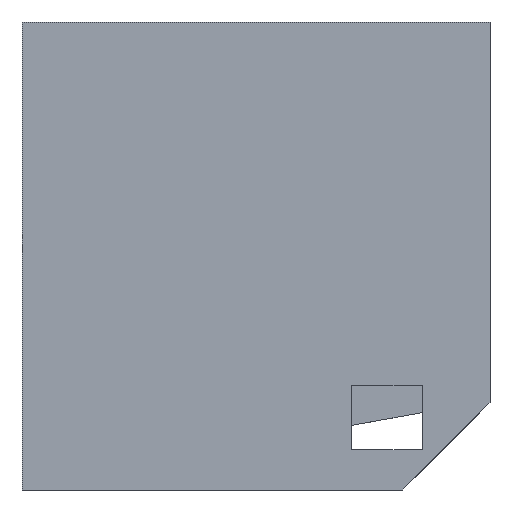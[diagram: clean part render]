
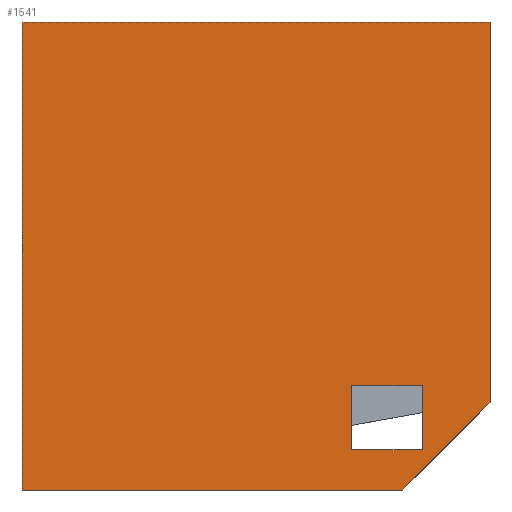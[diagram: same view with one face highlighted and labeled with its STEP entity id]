
A CAD part, left-side view. The second image highlights one B-rep face of the part: STEP entity #1541.
In plain terms, the highlighted planar face has unit normal (-1, 0, 0).
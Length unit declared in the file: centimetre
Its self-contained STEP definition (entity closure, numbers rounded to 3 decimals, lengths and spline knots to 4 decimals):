
#23 = DIRECTION ( 'NONE',  ( 0., 0., -1. ) ) ;
#33 = DIRECTION ( 'NONE',  ( 1., 0., 0. ) ) ;
#53 = EDGE_CURVE ( 'NONE', #155, #1446, #609, .T. ) ;
#83 = CARTESIAN_POINT ( 'NONE',  ( 0., 144.7966, 222.3885 ) ) ;
#91 = CARTESIAN_POINT ( 'NONE',  ( 0., 0., 1000. ) ) ;
#123 = DIRECTION ( 'NONE',  ( 0., -1., 0. ) ) ;
#149 = PLANE ( 'NONE',  #710 ) ;
#155 = VERTEX_POINT ( 'NONE', #507 ) ;
#170 = CARTESIAN_POINT ( 'NONE',  ( 0., 295.6125, 85.6267 ) ) ;
#176 = EDGE_CURVE ( 'NONE', #926, #1731, #216, .T. ) ;
#181 = CARTESIAN_POINT ( 'NONE',  ( 0., 144.7966, 85.6267 ) ) ;
#184 = CARTESIAN_POINT ( 'NONE',  ( 0., 144.7966, 85.6267 ) ) ;
#189 = CARTESIAN_POINT ( 'NONE',  ( 0., 0., 1000. ) ) ;
#201 = DIRECTION ( 'NONE',  ( 0., -0.707, 0.707 ) ) ;
#216 = LINE ( 'NONE', #83, #1079 ) ;
#223 = EDGE_CURVE ( 'NONE', #790, #422, #1357, .T. ) ;
#233 = VECTOR ( 'NONE', #123, 100. ) ;
#294 = FACE_BOUND ( 'NONE', #1056, .T. ) ;
#316 = CARTESIAN_POINT ( 'NONE',  ( 0., 0., 186.1934 ) ) ;
#328 = LINE ( 'NONE', #189, #965 ) ;
#338 = VECTOR ( 'NONE', #1683, 100. ) ;
#362 = EDGE_CURVE ( 'NONE', #1177, #813, #1142, .T. ) ;
#367 = CARTESIAN_POINT ( 'NONE',  ( 0., 144.7966, 222.3885 ) ) ;
#417 = CARTESIAN_POINT ( 'NONE',  ( 0., 0., 186.1934 ) ) ;
#422 = VERTEX_POINT ( 'NONE', #1055 ) ;
#458 = VECTOR ( 'NONE', #581, 100. ) ;
#487 = EDGE_CURVE ( 'NONE', #1177, #659, #904, .T. ) ;
#507 = CARTESIAN_POINT ( 'NONE',  ( 0., 186.1934, 0. ) ) ;
#515 = ORIENTED_EDGE ( 'NONE', *, *, #955, .F. ) ;
#520 = ORIENTED_EDGE ( 'NONE', *, *, #362, .F. ) ;
#525 = ORIENTED_EDGE ( 'NONE', *, *, #1487, .F. ) ;
#553 = VECTOR ( 'NONE', #1649, 100. ) ;
#571 = LINE ( 'NONE', #170, #458 ) ;
#574 = ORIENTED_EDGE ( 'NONE', *, *, #176, .F. ) ;
#581 = DIRECTION ( 'NONE',  ( 0., 0., -1. ) ) ;
#595 = DIRECTION ( 'NONE',  ( 0., 0., -1. ) ) ;
#609 = LINE ( 'NONE', #316, #1730 ) ;
#622 = CARTESIAN_POINT ( 'NONE',  ( 0., 295.6125, 85.6267 ) ) ;
#633 = ORIENTED_EDGE ( 'NONE', *, *, #1640, .F. ) ;
#659 = VERTEX_POINT ( 'NONE', #991 ) ;
#694 = DIRECTION ( 'NONE',  ( 0., -1., 0. ) ) ;
#710 = AXIS2_PLACEMENT_3D ( 'NONE', #1222, #33, #23 ) ;
#781 = CARTESIAN_POINT ( 'NONE',  ( 0., 1000., 0. ) ) ;
#790 = VERTEX_POINT ( 'NONE', #622 ) ;
#813 = VERTEX_POINT ( 'NONE', #91 ) ;
#862 = CARTESIAN_POINT ( 'NONE',  ( 0., 1000., 1000. ) ) ;
#904 = LINE ( 'NONE', #928, #1380 ) ;
#926 = VERTEX_POINT ( 'NONE', #367 ) ;
#928 = CARTESIAN_POINT ( 'NONE',  ( 0., 1000., 1000. ) ) ;
#955 = EDGE_CURVE ( 'NONE', #422, #926, #1350, .T. ) ;
#965 = VECTOR ( 'NONE', #595, 100. ) ;
#991 = CARTESIAN_POINT ( 'NONE',  ( 0., 1000., 0. ) ) ;
#1055 = CARTESIAN_POINT ( 'NONE',  ( 0., 144.7966, 85.6267 ) ) ;
#1056 = EDGE_LOOP ( 'NONE', ( #515, #1219, #525, #574 ) ) ;
#1079 = VECTOR ( 'NONE', #1225, 100. ) ;
#1142 = LINE ( 'NONE', #862, #338 ) ;
#1177 = VERTEX_POINT ( 'NONE', #1396 ) ;
#1202 = EDGE_LOOP ( 'NONE', ( #1233, #1316, #633, #520, #1702 ) ) ;
#1219 = ORIENTED_EDGE ( 'NONE', *, *, #223, .F. ) ;
#1222 = CARTESIAN_POINT ( 'NONE',  ( 0., 1000., 1000. ) ) ;
#1225 = DIRECTION ( 'NONE',  ( 0., 1., 0. ) ) ;
#1233 = ORIENTED_EDGE ( 'NONE', *, *, #1391, .T. ) ;
#1316 = ORIENTED_EDGE ( 'NONE', *, *, #53, .T. ) ;
#1329 = LINE ( 'NONE', #781, #233 ) ;
#1350 = LINE ( 'NONE', #181, #553 ) ;
#1355 = FACE_OUTER_BOUND ( 'NONE', #1202, .T. ) ;
#1357 = LINE ( 'NONE', #184, #1588 ) ;
#1380 = VECTOR ( 'NONE', #1711, 100. ) ;
#1391 = EDGE_CURVE ( 'NONE', #659, #155, #1329, .T. ) ;
#1396 = CARTESIAN_POINT ( 'NONE',  ( 0., 1000., 1000. ) ) ;
#1446 = VERTEX_POINT ( 'NONE', #417 ) ;
#1487 = EDGE_CURVE ( 'NONE', #1731, #790, #571, .T. ) ;
#1498 = CARTESIAN_POINT ( 'NONE',  ( 0., 295.6125, 222.3885 ) ) ;
#1541 = ADVANCED_FACE ( 'NONE', ( #294, #1355 ), #149, .F. ) ;
#1588 = VECTOR ( 'NONE', #694, 100. ) ;
#1640 = EDGE_CURVE ( 'NONE', #813, #1446, #328, .T. ) ;
#1649 = DIRECTION ( 'NONE',  ( 0., 0., 1. ) ) ;
#1683 = DIRECTION ( 'NONE',  ( 0., -1., 0. ) ) ;
#1702 = ORIENTED_EDGE ( 'NONE', *, *, #487, .T. ) ;
#1711 = DIRECTION ( 'NONE',  ( 0., 0., -1. ) ) ;
#1730 = VECTOR ( 'NONE', #201, 100. ) ;
#1731 = VERTEX_POINT ( 'NONE', #1498 ) ;
